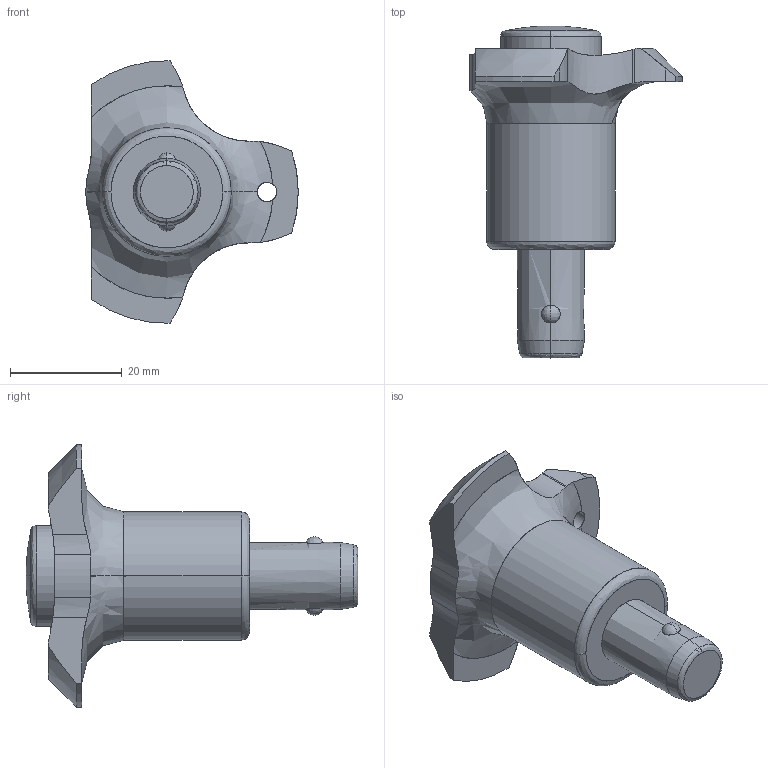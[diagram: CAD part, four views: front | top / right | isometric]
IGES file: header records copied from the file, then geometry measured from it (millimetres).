
Start section: SolidWorks IGES file using analytic representation for surfaces
Global section: file name: C:\Users\ianosborn\Desktop\33180_v2\33180_v2_20250106_IGES\33180.W0042.igs; native system: SolidWorks 2019; preprocessor: SolidWorks 2019; author: IanOsborn; date: 250106.111536; units: millimetre
Bounding box: 38 x 59.4 x 46.99 mm (x, y, z)
Surface area: 9718.8 mm2 (no closed solid volume)
Topology: 0 solids, 0 shells, 68 faces, 1000 edges, 999 vertices
Faces by surface type: revolution 40, bspline 28
